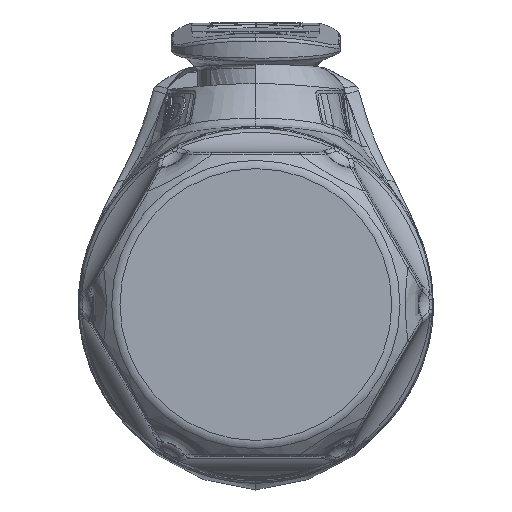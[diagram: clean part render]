
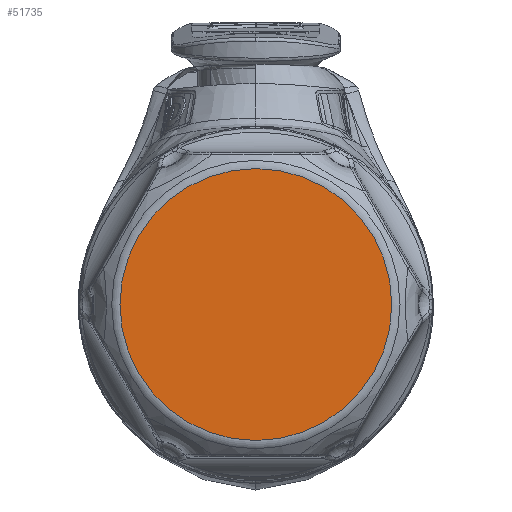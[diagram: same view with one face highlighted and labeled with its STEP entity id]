
A CAD part, front view. The second image highlights one B-rep face of the part: STEP entity #51735.
In plain terms, the highlighted planar face has unit normal (0, -1, 0).
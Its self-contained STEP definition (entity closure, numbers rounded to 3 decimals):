
#6603 = AXIS2_PLACEMENT_3D ( 'NONE', #33698, #83269, #54437 ) ;
#19295 = AXIS2_PLACEMENT_3D ( 'NONE', #62652, #28401, #55892 ) ;
#26944 = PLANE ( 'NONE',  #6603 ) ;
#28401 = DIRECTION ( 'NONE',  ( 0., -1., 0. ) ) ;
#33698 = CARTESIAN_POINT ( 'NONE',  ( 0., -58.7, 0. ) ) ;
#49708 = EDGE_LOOP ( 'NONE', ( #78282 ) ) ;
#51735 = ADVANCED_FACE ( 'NONE', ( #68843 ), #26944, .T. ) ;
#54437 = DIRECTION ( 'NONE',  ( 0., 0., -1. ) ) ;
#55892 = DIRECTION ( 'NONE',  ( 1., 0., 0. ) ) ;
#62652 = CARTESIAN_POINT ( 'NONE',  ( 0., -58.7, 0. ) ) ;
#63031 = CARTESIAN_POINT ( 'NONE',  ( 11.016, -58.7, 0. ) ) ;
#68843 = FACE_OUTER_BOUND ( 'NONE', #49708, .T. ) ;
#69674 = CIRCLE ( 'NONE', #19295, 11.016 ) ;
#76570 = VERTEX_POINT ( 'NONE', #63031 ) ;
#78282 = ORIENTED_EDGE ( 'NONE', *, *, #79246, .T. ) ;
#79246 = EDGE_CURVE ( 'NONE', #76570, #76570, #69674, .T. ) ;
#83269 = DIRECTION ( 'NONE',  ( 0., -1., 0. ) ) ;
